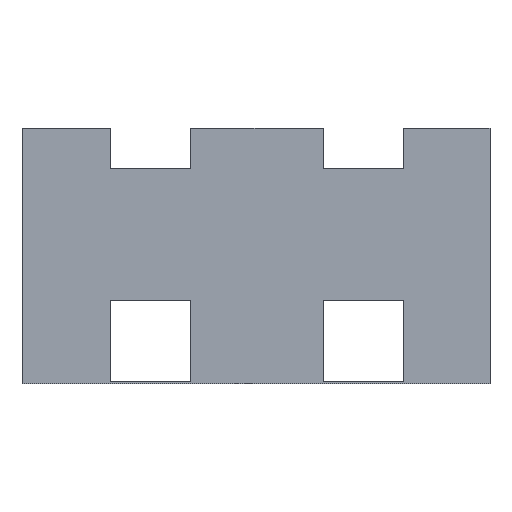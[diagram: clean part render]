
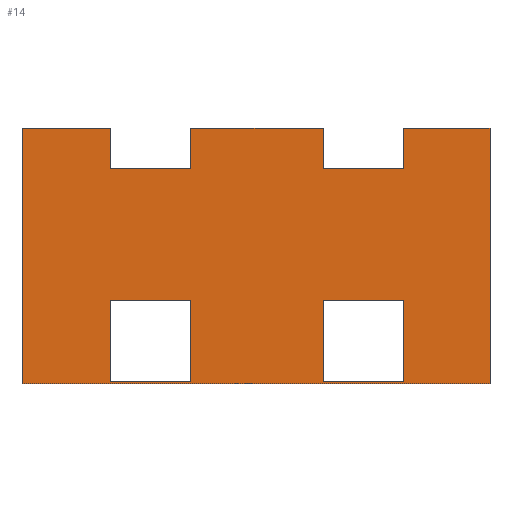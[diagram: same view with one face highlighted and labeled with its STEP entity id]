
A CAD part, top view. The second image highlights one B-rep face of the part: STEP entity #14.
In plain terms, the highlighted planar face has unit normal (0, 0, 1).
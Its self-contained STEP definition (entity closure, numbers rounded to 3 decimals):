
#14=ADVANCED_FACE($,(#39,#37,#38),#341,.T.);
#37=FACE_BOUND($,#63,.T.);
#38=FACE_BOUND($,#64,.T.);
#39=FACE_OUTER_BOUND($,#62,.T.);
#62=EDGE_LOOP($,(#87,#88,#89,#90,#91,#92,#93,#94,#95,#96,#97,#98));
#63=EDGE_LOOP($,(#99,#100,#101,#102));
#64=EDGE_LOOP($,(#103,#104,#105,#106));
#87=ORIENTED_EDGE($,*,*,#284,.T.);
#88=ORIENTED_EDGE($,*,*,#292,.T.);
#89=ORIENTED_EDGE($,*,*,#227,.T.);
#90=ORIENTED_EDGE($,*,*,#225,.T.);
#91=ORIENTED_EDGE($,*,*,#229,.T.);
#92=ORIENTED_EDGE($,*,*,#228,.T.);
#93=ORIENTED_EDGE($,*,*,#273,.T.);
#94=ORIENTED_EDGE($,*,*,#274,.T.);
#95=ORIENTED_EDGE($,*,*,#272,.T.);
#96=ORIENTED_EDGE($,*,*,#280,.T.);
#97=ORIENTED_EDGE($,*,*,#285,.T.);
#98=ORIENTED_EDGE($,*,*,#286,.T.);
#99=ORIENTED_EDGE($,*,*,#245,.T.);
#100=ORIENTED_EDGE($,*,*,#246,.T.);
#101=ORIENTED_EDGE($,*,*,#247,.T.);
#102=ORIENTED_EDGE($,*,*,#244,.T.);
#103=ORIENTED_EDGE($,*,*,#260,.T.);
#104=ORIENTED_EDGE($,*,*,#261,.T.);
#105=ORIENTED_EDGE($,*,*,#262,.T.);
#106=ORIENTED_EDGE($,*,*,#259,.T.);
#225=EDGE_CURVE($,#294,#297,#363,.T.);
#227=EDGE_CURVE($,#295,#294,#365,.T.);
#228=EDGE_CURVE($,#296,#324,#366,.T.);
#229=EDGE_CURVE($,#297,#296,#367,.T.);
#244=EDGE_CURVE($,#304,#305,#382,.T.);
#245=EDGE_CURVE($,#305,#306,#383,.T.);
#246=EDGE_CURVE($,#306,#307,#384,.T.);
#247=EDGE_CURVE($,#307,#304,#385,.T.);
#259=EDGE_CURVE($,#314,#315,#397,.T.);
#260=EDGE_CURVE($,#315,#316,#398,.T.);
#261=EDGE_CURVE($,#316,#317,#399,.T.);
#262=EDGE_CURVE($,#317,#314,#400,.T.);
#272=EDGE_CURVE($,#326,#325,#410,.T.);
#273=EDGE_CURVE($,#324,#327,#411,.T.);
#274=EDGE_CURVE($,#327,#326,#412,.T.);
#280=EDGE_CURVE($,#325,#332,#418,.T.);
#284=EDGE_CURVE($,#334,#333,#422,.T.);
#285=EDGE_CURVE($,#332,#335,#423,.T.);
#286=EDGE_CURVE($,#335,#334,#424,.T.);
#292=EDGE_CURVE($,#333,#295,#430,.T.);
#294=VERTEX_POINT($,#790);
#295=VERTEX_POINT($,#791);
#296=VERTEX_POINT($,#792);
#297=VERTEX_POINT($,#793);
#304=VERTEX_POINT($,#800);
#305=VERTEX_POINT($,#801);
#306=VERTEX_POINT($,#802);
#307=VERTEX_POINT($,#803);
#314=VERTEX_POINT($,#810);
#315=VERTEX_POINT($,#811);
#316=VERTEX_POINT($,#812);
#317=VERTEX_POINT($,#813);
#324=VERTEX_POINT($,#820);
#325=VERTEX_POINT($,#821);
#326=VERTEX_POINT($,#822);
#327=VERTEX_POINT($,#823);
#332=VERTEX_POINT($,#828);
#333=VERTEX_POINT($,#829);
#334=VERTEX_POINT($,#830);
#335=VERTEX_POINT($,#831);
#341=PLANE($,#520);
#363=B_SPLINE_CURVE_WITH_KNOTS($,1,(#570,#571),.UNSPECIFIED.,.F.,.F.,(2,
2),(0.,6.985),.UNSPECIFIED.);
#365=B_SPLINE_CURVE_WITH_KNOTS($,1,(#574,#575),.UNSPECIFIED.,.F.,.F.,(2,
2),(17.78,21.59),.UNSPECIFIED.);
#366=B_SPLINE_CURVE_WITH_KNOTS($,1,(#576,#577),.UNSPECIFIED.,.F.,.F.,(2,
2),(10.795,12.085),.UNSPECIFIED.);
#367=B_SPLINE_CURVE_WITH_KNOTS($,1,(#578,#579),.UNSPECIFIED.,.F.,.F.,(2,
2),(6.985,10.795),.UNSPECIFIED.);
#382=B_SPLINE_CURVE_WITH_KNOTS($,1,(#612,#613),.UNSPECIFIED.,.F.,.F.,(2,
2),(0.15,1.35),.UNSPECIFIED.);
#383=B_SPLINE_CURVE_WITH_KNOTS($,1,(#614,#615),.UNSPECIFIED.,.F.,.F.,(2,
2),(1.35,2.55),.UNSPECIFIED.);
#384=B_SPLINE_CURVE_WITH_KNOTS($,1,(#616,#617),.UNSPECIFIED.,.F.,.F.,(2,
2),(2.55,3.75),.UNSPECIFIED.);
#385=B_SPLINE_CURVE_WITH_KNOTS($,1,(#618,#619),.UNSPECIFIED.,.F.,.F.,(2,
2),(3.75,4.95),.UNSPECIFIED.);
#397=B_SPLINE_CURVE_WITH_KNOTS($,1,(#656,#657),.UNSPECIFIED.,.F.,.F.,(2,
2),(0.15,1.35),.UNSPECIFIED.);
#398=B_SPLINE_CURVE_WITH_KNOTS($,1,(#658,#659),.UNSPECIFIED.,.F.,.F.,(2,
2),(1.35,2.55),.UNSPECIFIED.);
#399=B_SPLINE_CURVE_WITH_KNOTS($,1,(#660,#661),.UNSPECIFIED.,.F.,.F.,(2,
2),(2.55,3.75),.UNSPECIFIED.);
#400=B_SPLINE_CURVE_WITH_KNOTS($,1,(#662,#663),.UNSPECIFIED.,.F.,.F.,(2,
2),(3.75,4.95),.UNSPECIFIED.);
#410=B_SPLINE_CURVE_WITH_KNOTS($,1,(#696,#697),.UNSPECIFIED.,.F.,.F.,(2,
2),(0.15,0.75),.UNSPECIFIED.);
#411=B_SPLINE_CURVE_WITH_KNOTS($,1,(#698,#699),.UNSPECIFIED.,.F.,.F.,(2,
2),(3.15,3.75),.UNSPECIFIED.);
#412=B_SPLINE_CURVE_WITH_KNOTS($,1,(#700,#701),.UNSPECIFIED.,.F.,.F.,(2,
2),(3.75,4.95),.UNSPECIFIED.);
#418=B_SPLINE_CURVE_WITH_KNOTS($,1,(#722,#723),.UNSPECIFIED.,.F.,.F.,(2,
2),(13.285,15.26),.UNSPECIFIED.);
#422=B_SPLINE_CURVE_WITH_KNOTS($,1,(#730,#731),.UNSPECIFIED.,.F.,.F.,(2,
2),(0.15,0.75),.UNSPECIFIED.);
#423=B_SPLINE_CURVE_WITH_KNOTS($,1,(#732,#733),.UNSPECIFIED.,.F.,.F.,(2,
2),(3.15,3.75),.UNSPECIFIED.);
#424=B_SPLINE_CURVE_WITH_KNOTS($,1,(#734,#735),.UNSPECIFIED.,.F.,.F.,(2,
2),(3.75,4.95),.UNSPECIFIED.);
#430=B_SPLINE_CURVE_WITH_KNOTS($,1,(#756,#757),.UNSPECIFIED.,.F.,.F.,(2,
2),(16.46,17.78),.UNSPECIFIED.);
#520=AXIS2_PLACEMENT_3D($,#760,#545,$);
#545=DIRECTION($,(0.,0.,1.));
#570=CARTESIAN_POINT($,(69.85,29.21,0.));
#571=CARTESIAN_POINT($,(76.835,29.21,0.));
#574=CARTESIAN_POINT($,(69.85,33.02,0.));
#575=CARTESIAN_POINT($,(69.85,29.21,0.));
#576=CARTESIAN_POINT($,(76.835,33.02,0.));
#577=CARTESIAN_POINT($,(75.545,33.02,0.));
#578=CARTESIAN_POINT($,(76.835,29.21,0.));
#579=CARTESIAN_POINT($,(76.835,33.02,0.));
#612=CARTESIAN_POINT($,(71.17,29.245,0.));
#613=CARTESIAN_POINT($,(71.17,30.445,0.));
#614=CARTESIAN_POINT($,(71.17,30.445,0.));
#615=CARTESIAN_POINT($,(72.37,30.445,0.));
#616=CARTESIAN_POINT($,(72.37,30.445,0.));
#617=CARTESIAN_POINT($,(72.37,29.245,0.));
#618=CARTESIAN_POINT($,(72.37,29.245,0.));
#619=CARTESIAN_POINT($,(71.17,29.245,0.));
#656=CARTESIAN_POINT($,(74.345,29.245,0.));
#657=CARTESIAN_POINT($,(74.345,30.445,0.));
#658=CARTESIAN_POINT($,(74.345,30.445,0.));
#659=CARTESIAN_POINT($,(75.545,30.445,0.));
#660=CARTESIAN_POINT($,(75.545,30.445,0.));
#661=CARTESIAN_POINT($,(75.545,29.245,0.));
#662=CARTESIAN_POINT($,(75.545,29.245,0.));
#663=CARTESIAN_POINT($,(74.345,29.245,0.));
#696=CARTESIAN_POINT($,(74.345,32.42,0.));
#697=CARTESIAN_POINT($,(74.345,33.02,0.));
#698=CARTESIAN_POINT($,(75.545,33.02,0.));
#699=CARTESIAN_POINT($,(75.545,32.42,0.));
#700=CARTESIAN_POINT($,(75.545,32.42,0.));
#701=CARTESIAN_POINT($,(74.345,32.42,0.));
#722=CARTESIAN_POINT($,(74.345,33.02,0.));
#723=CARTESIAN_POINT($,(72.37,33.02,0.));
#730=CARTESIAN_POINT($,(71.17,32.42,0.));
#731=CARTESIAN_POINT($,(71.17,33.02,0.));
#732=CARTESIAN_POINT($,(72.37,33.02,0.));
#733=CARTESIAN_POINT($,(72.37,32.42,0.));
#734=CARTESIAN_POINT($,(72.37,32.42,0.));
#735=CARTESIAN_POINT($,(71.17,32.42,0.));
#756=CARTESIAN_POINT($,(71.17,33.02,0.));
#757=CARTESIAN_POINT($,(69.85,33.02,0.));
#760=CARTESIAN_POINT($,(69.85,29.21,0.));
#790=CARTESIAN_POINT($,(69.85,29.21,0.));
#791=CARTESIAN_POINT($,(69.85,33.02,0.));
#792=CARTESIAN_POINT($,(76.835,33.02,0.));
#793=CARTESIAN_POINT($,(76.835,29.21,0.));
#800=CARTESIAN_POINT($,(71.17,29.245,0.));
#801=CARTESIAN_POINT($,(71.17,30.445,0.));
#802=CARTESIAN_POINT($,(72.37,30.445,0.));
#803=CARTESIAN_POINT($,(72.37,29.245,0.));
#810=CARTESIAN_POINT($,(74.345,29.245,0.));
#811=CARTESIAN_POINT($,(74.345,30.445,0.));
#812=CARTESIAN_POINT($,(75.545,30.445,0.));
#813=CARTESIAN_POINT($,(75.545,29.245,0.));
#820=CARTESIAN_POINT($,(75.545,33.02,0.));
#821=CARTESIAN_POINT($,(74.345,33.02,0.));
#822=CARTESIAN_POINT($,(74.345,32.42,0.));
#823=CARTESIAN_POINT($,(75.545,32.42,0.));
#828=CARTESIAN_POINT($,(72.37,33.02,0.));
#829=CARTESIAN_POINT($,(71.17,33.02,0.));
#830=CARTESIAN_POINT($,(71.17,32.42,0.));
#831=CARTESIAN_POINT($,(72.37,32.42,0.));
